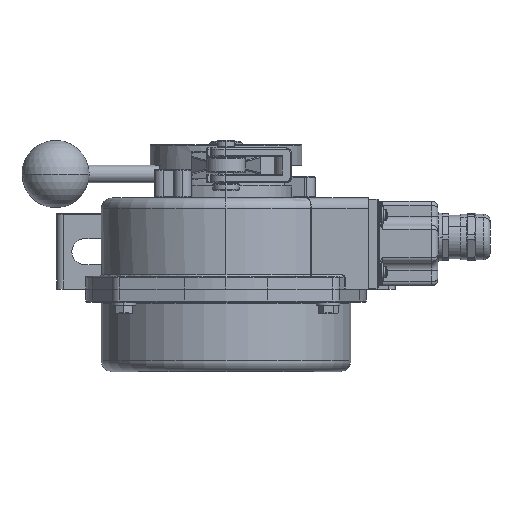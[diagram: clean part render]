
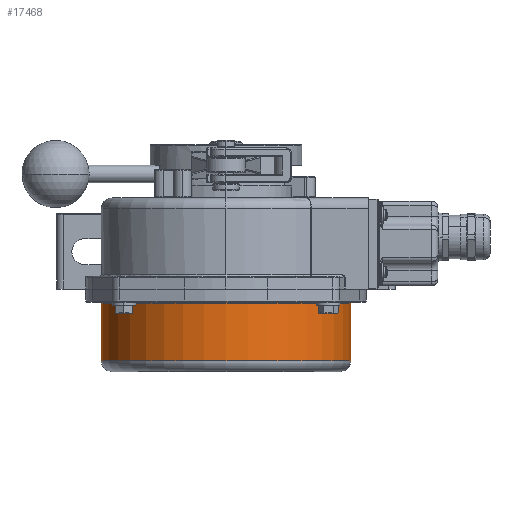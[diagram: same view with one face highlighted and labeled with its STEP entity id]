
A CAD part, left-side view. The second image highlights one B-rep face of the part: STEP entity #17468.
In plain terms, the highlighted cylindrical face has radius 57.5 mm (diameter 115 mm), a partial arc.
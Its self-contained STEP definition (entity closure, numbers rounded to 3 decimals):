
#139 = EDGE_CURVE ( 'NONE', #18415, #7950, #16402, .T. ) ;
#208 = EDGE_CURVE ( 'NONE', #18415, #6931, #22478, .T. ) ;
#497 = EDGE_LOOP ( 'NONE', ( #23861, #14641, #16376, #25484 ) ) ;
#1640 = VECTOR ( 'NONE', #6280, 1000. ) ;
#2198 = LINE ( 'NONE', #10347, #13726 ) ;
#2598 = CARTESIAN_POINT ( 'NONE',  ( 0., 0., 6.5 ) ) ;
#3392 = FACE_OUTER_BOUND ( 'NONE', #497, .T. ) ;
#4375 = CIRCLE ( 'NONE', #19252, 57.5 ) ;
#4538 = DIRECTION ( 'NONE',  ( 1., 0., 0. ) ) ;
#6280 = DIRECTION ( 'NONE',  ( 0., 0., -1. ) ) ;
#6931 = VERTEX_POINT ( 'NONE', #24957 ) ;
#7527 = DIRECTION ( 'NONE',  ( 0., 0., -1. ) ) ;
#7950 = VERTEX_POINT ( 'NONE', #9823 ) ;
#8079 = EDGE_CURVE ( 'NONE', #6931, #19048, #2198, .T. ) ;
#9823 = CARTESIAN_POINT ( 'NONE',  ( -57.5, 0., 6.5 ) ) ;
#10347 = CARTESIAN_POINT ( 'NONE',  ( 57.5, 0., 38. ) ) ;
#10740 = DIRECTION ( 'NONE',  ( 0., 0., 1. ) ) ;
#13726 = VECTOR ( 'NONE', #18443, 1000. ) ;
#14641 = ORIENTED_EDGE ( 'NONE', *, *, #8079, .T. ) ;
#14663 = CARTESIAN_POINT ( 'NONE',  ( 0., 0., 33. ) ) ;
#14782 = AXIS2_PLACEMENT_3D ( 'NONE', #14663, #22771, #4538 ) ;
#14831 = EDGE_CURVE ( 'NONE', #19048, #7950, #4375, .T. ) ;
#15652 = DIRECTION ( 'NONE',  ( -1., 0., 0. ) ) ;
#16376 = ORIENTED_EDGE ( 'NONE', *, *, #14831, .T. ) ;
#16402 = LINE ( 'NONE', #24512, #1640 ) ;
#16419 = AXIS2_PLACEMENT_3D ( 'NONE', #25762, #7527, #15652 ) ;
#17468 = ADVANCED_FACE ( 'NONE', ( #3392 ), #17637, .T. ) ;
#17637 = CYLINDRICAL_SURFACE ( 'NONE', #16419, 57.5 ) ;
#18415 = VERTEX_POINT ( 'NONE', #24189 ) ;
#18443 = DIRECTION ( 'NONE',  ( 0., 0., -1. ) ) ;
#18839 = DIRECTION ( 'NONE',  ( 1., 0., 0. ) ) ;
#19048 = VERTEX_POINT ( 'NONE', #23596 ) ;
#19252 = AXIS2_PLACEMENT_3D ( 'NONE', #2598, #10740, #18839 ) ;
#22478 = CIRCLE ( 'NONE', #14782, 57.5 ) ;
#22771 = DIRECTION ( 'NONE',  ( 0., 0., -1. ) ) ;
#23596 = CARTESIAN_POINT ( 'NONE',  ( 57.5, 0., 6.5 ) ) ;
#23861 = ORIENTED_EDGE ( 'NONE', *, *, #208, .T. ) ;
#24189 = CARTESIAN_POINT ( 'NONE',  ( -57.5, 0., 33. ) ) ;
#24512 = CARTESIAN_POINT ( 'NONE',  ( -57.5, 0., 38. ) ) ;
#24957 = CARTESIAN_POINT ( 'NONE',  ( 57.5, 0., 33. ) ) ;
#25484 = ORIENTED_EDGE ( 'NONE', *, *, #139, .F. ) ;
#25762 = CARTESIAN_POINT ( 'NONE',  ( 0., 0., 38. ) ) ;
